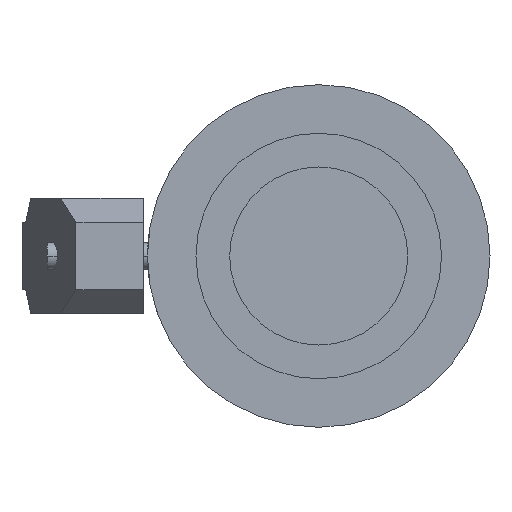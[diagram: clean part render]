
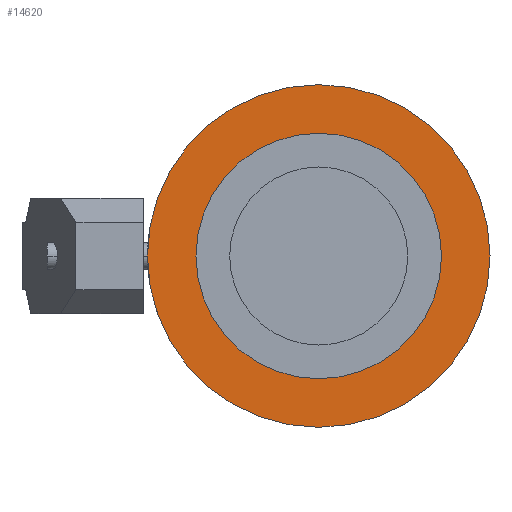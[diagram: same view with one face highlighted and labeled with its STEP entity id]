
A CAD part, left-side view. The second image highlights one B-rep face of the part: STEP entity #14620.
In plain terms, the highlighted planar face has unit normal (-1, 0, 0).
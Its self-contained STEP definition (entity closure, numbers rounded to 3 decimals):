
#11870=CARTESIAN_POINT('',(250.928,201.848,
0.));
#11880=VERTEX_POINT('',#11870);
#14230=CARTESIAN_POINT('',(250.928,328.848,0.));
#14240=VERTEX_POINT('',#14230);
#14270=CARTESIAN_POINT('',(250.928,265.348,0.));
#14280=DIRECTION('',(1.,0.,0.));
#14290=DIRECTION('',(0.,1.,0.));
#14300=AXIS2_PLACEMENT_3D('',#14270,#14280,#14290);
#14310=CIRCLE('',#14300,63.5);
#14320=EDGE_CURVE('',#11880,#14240,#14310,.T.);
#14370=CARTESIAN_POINT('',(250.928,326.498,0.));
#14380=DIRECTION('',(1.,0.,0.));
#14390=DIRECTION('',(0.,1.,0.));
#14400=AXIS2_PLACEMENT_3D('',#14370,#14380,#14390);
#14410=PLANE('',#14400);
#14420=CARTESIAN_POINT('',(250.928,265.348,0.));
#14430=DIRECTION('',(1.,0.,0.));
#14440=DIRECTION('',(0.,1.,0.));
#14450=AXIS2_PLACEMENT_3D('',#14420,#14430,#14440);
#14460=CIRCLE('',#14450,45.);
#14470=CARTESIAN_POINT('',(250.928,310.348,0.));
#14480=VERTEX_POINT('',#14470);
#14490=CARTESIAN_POINT('',(250.928,220.348,0.));
#14500=VERTEX_POINT('',#14490);
#14510=EDGE_CURVE('',#14480,#14500,#14460,.T.);
#14520=ORIENTED_EDGE('',*,*,#14510,.T.);
#14530=EDGE_CURVE('',#14500,#14480,#14460,.T.);
#14540=ORIENTED_EDGE('',*,*,#14530,.T.);
#14550=EDGE_LOOP('',(#14540,#14520));
#14560=FACE_BOUND('',#14550,.T.);
#14570=EDGE_CURVE('',#14240,#11880,#14310,.T.);
#14580=ORIENTED_EDGE('',*,*,#14570,.F.);
#14590=ORIENTED_EDGE('',*,*,#14320,.F.);
#14600=EDGE_LOOP('',(#14590,#14580));
#14610=FACE_OUTER_BOUND('',#14600,.T.);
#14620=ADVANCED_FACE('',(#14560,#14610),#14410,.F.);
